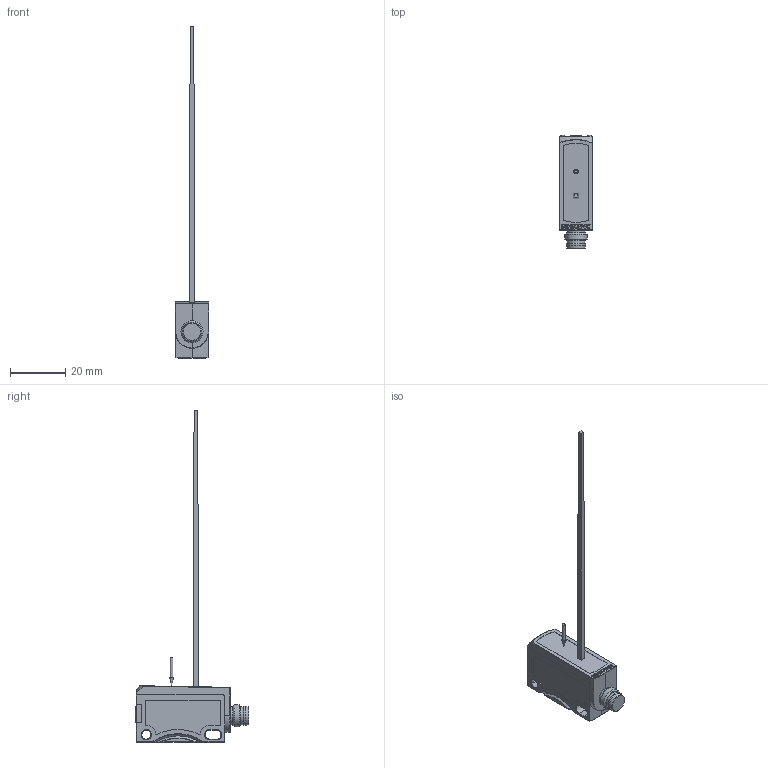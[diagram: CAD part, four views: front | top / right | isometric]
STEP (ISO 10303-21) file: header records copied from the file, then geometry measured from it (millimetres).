
FILE_DESCRIPTION(/* description */ (''),/* implementation_level */ '2;1');
FILE_NAME(/* name */ 'C:\Temp\Publisher-Output\604-41010_FT 25-RLA-80-PNSU-M4M.stp',/* time_stamp */ '2023-03-14T14:17:12+01:00',/* author */ ('Sandra.Stahl'),/* organization */ (''),/* preprocessor_version */ 'ST-DEVELOPER v18.1',/* originating_system */ 'Autodesk Inventor 2022',/* authorisation */ '');
FILE_SCHEMA (('AUTOMOTIVE_DESIGN { 1 0 10303 214 3 1 1 }'));
Length unit declared in the file: millimetre
Products named in the file (1): GH-ENG-0041302_Vereinfachen_1
Bounding box: 12 x 41 x 119.97 mm (x, y, z)
Volume: 8183.9 mm3; surface area: 3765.3 mm2
Topology: 3 solids, 3 shells, 266 faces, 633 edges, 379 vertices
Faces by surface type: plane 117, cylinder 72, bspline 27, sphere 18, cone 17, torus 15
Full cylindrical faces by diameter (mm): 1 x1, 1.215 x1, 1.422 x1, 4.1 x1, 6.5 x2, 6.9 x1, 8 x1
Entity records: 8690 total; most frequent: CARTESIAN_POINT 2353, DIRECTION 1246, ORIENTED_EDGE 1232, EDGE_CURVE 616, AXIS2_PLACEMENT_3D 450, VERTEX_POINT 378, LINE 346, VECTOR 346
